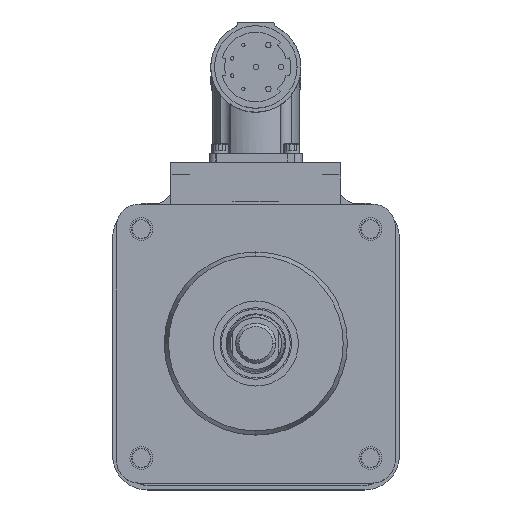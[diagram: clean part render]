
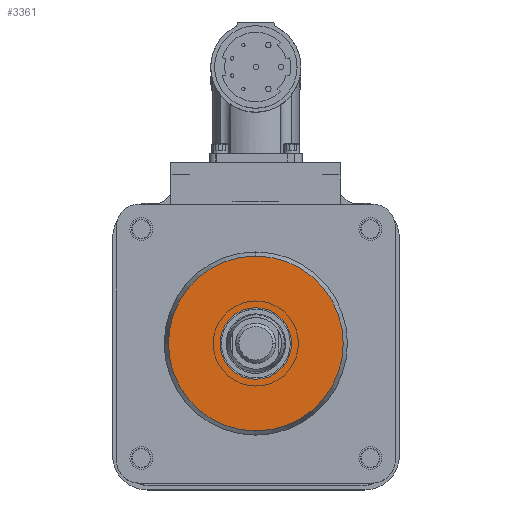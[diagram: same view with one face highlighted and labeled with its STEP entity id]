
A CAD part, top view. The second image highlights one B-rep face of the part: STEP entity #3361.
In plain terms, the highlighted planar face has unit normal (0, 0, 1).
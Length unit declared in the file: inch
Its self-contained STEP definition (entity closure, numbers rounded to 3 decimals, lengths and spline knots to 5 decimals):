
#2921 = EDGE_CURVE ( 'NONE', #2973, #2974, #11076, .T. ) ;
#2957 = VERTEX_POINT ( 'NONE', #11122 ) ;
#2973 = VERTEX_POINT ( 'NONE', #11154 ) ;
#2974 = VERTEX_POINT ( 'NONE', #11153 ) ;
#3014 = EDGE_CURVE ( 'NONE', #2957, #3015, #11262, .T. ) ;
#3015 = VERTEX_POINT ( 'NONE', #11257 ) ;
#3361 = ADVANCED_FACE ( 'NONE', ( #11866, #11865 ), #11864, .T. ) ;
#3362 = EDGE_LOOP ( 'NONE', ( #3363, #3365 ) ) ;
#3363 = ORIENTED_EDGE ( 'NONE', *, *, #3364, .T. ) ;
#3364 = EDGE_CURVE ( 'NONE', #2974, #2973, #11859, .T. ) ;
#3365 = ORIENTED_EDGE ( 'NONE', *, *, #2921, .T. ) ;
#3366 = EDGE_LOOP ( 'NONE', ( #3367, #3369 ) ) ;
#3367 = ORIENTED_EDGE ( 'NONE', *, *, #3368, .F. ) ;
#3368 = EDGE_CURVE ( 'NONE', #3015, #2957, #11926, .T. ) ;
#3369 = ORIENTED_EDGE ( 'NONE', *, *, #3014, .F. ) ;
#11068 = DIRECTION ( 'NONE',  ( 1., 0., 0. ) ) ;
#11069 = DIRECTION ( 'NONE',  ( 0., 0., 1. ) ) ;
#11070 = CARTESIAN_POINT ( 'NONE',  ( 0., 0., 0. ) ) ;
#11071 = AXIS2_PLACEMENT_3D ( 'NONE', #11070, #11069, #11068 ) ;
#11076 = CIRCLE ( 'NONE', #11071, 0.9545 ) ;
#11122 = CARTESIAN_POINT ( 'NONE',  ( -0.39, 0., 0. ) ) ;
#11153 = CARTESIAN_POINT ( 'NONE',  ( -0.9545, 0., 0. ) ) ;
#11154 = CARTESIAN_POINT ( 'NONE',  ( 0.9545, 0., 0. ) ) ;
#11257 = CARTESIAN_POINT ( 'NONE',  ( 0.39, 0., 0. ) ) ;
#11258 = DIRECTION ( 'NONE',  ( 1., 0., 0. ) ) ;
#11259 = DIRECTION ( 'NONE',  ( 0., 0., 1. ) ) ;
#11260 = CARTESIAN_POINT ( 'NONE',  ( 0., 0., 0. ) ) ;
#11261 = AXIS2_PLACEMENT_3D ( 'NONE', #11260, #11259, #11258 ) ;
#11262 = CIRCLE ( 'NONE', #11261, 0.39 ) ;
#11859 = CIRCLE ( 'NONE', #11931, 0.9545 ) ;
#11860 = DIRECTION ( 'NONE',  ( 1., 0., 0. ) ) ;
#11861 = DIRECTION ( 'NONE',  ( 0., 0., 1. ) ) ;
#11862 = AXIS2_PLACEMENT_3D ( 'NONE', #11863, #11861, #11860 ) ;
#11863 = CARTESIAN_POINT ( 'NONE',  ( -1.273, 1.273, 0. ) ) ;
#11864 = PLANE ( 'NONE',  #11862 ) ;
#11865 = FACE_BOUND ( 'NONE', #3366, .T. ) ;
#11866 = FACE_OUTER_BOUND ( 'NONE', #3362, .T. ) ;
#11922 = DIRECTION ( 'NONE',  ( 1., 0., 0. ) ) ;
#11924 = DIRECTION ( 'NONE',  ( 0., 0., 1. ) ) ;
#11925 = AXIS2_PLACEMENT_3D ( 'NONE', #11932, #11924, #11922 ) ;
#11926 = CIRCLE ( 'NONE', #11925, 0.39 ) ;
#11928 = DIRECTION ( 'NONE',  ( 1., 0., 0. ) ) ;
#11929 = DIRECTION ( 'NONE',  ( 0., 0., 1. ) ) ;
#11930 = CARTESIAN_POINT ( 'NONE',  ( 0., 0., 0. ) ) ;
#11931 = AXIS2_PLACEMENT_3D ( 'NONE', #11930, #11929, #11928 ) ;
#11932 = CARTESIAN_POINT ( 'NONE',  ( 0., 0., 0. ) ) ;
